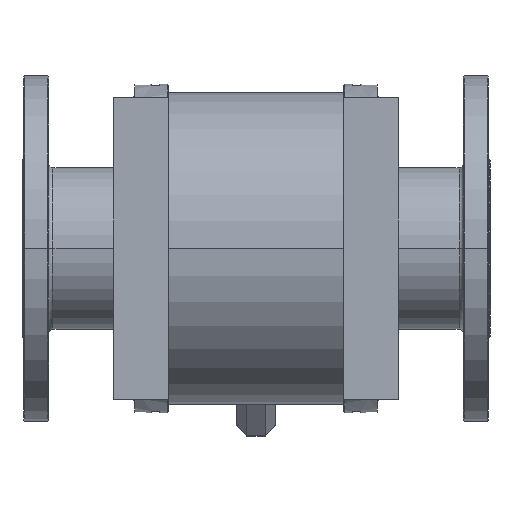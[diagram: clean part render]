
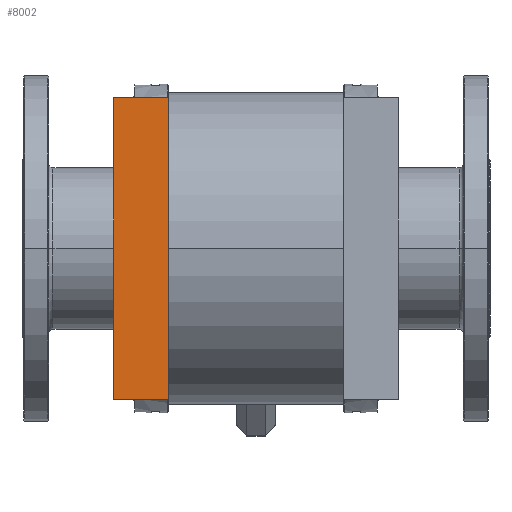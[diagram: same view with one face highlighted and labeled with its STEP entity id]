
A CAD part, front view. The second image highlights one B-rep face of the part: STEP entity #8002.
In plain terms, the highlighted planar face has unit normal (0, -1, 0).
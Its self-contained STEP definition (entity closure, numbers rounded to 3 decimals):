
#423 = AXIS2_PLACEMENT_3D ( 'NONE', #9703, #6635, #3556 ) ;
#809 = VERTEX_POINT ( 'NONE', #8953 ) ;
#1088 = DIRECTION ( 'NONE',  ( 1., 0., 0. ) ) ;
#1782 = VERTEX_POINT ( 'NONE', #3860 ) ;
#1869 = DIRECTION ( 'NONE',  ( 1., 0., 0. ) ) ;
#2388 = ORIENTED_EDGE ( 'NONE', *, *, #12003, .T. ) ;
#3183 = EDGE_LOOP ( 'NONE', ( #2388, #10018, #10512, #3390 ) ) ;
#3321 = CARTESIAN_POINT ( 'NONE',  ( -170., -291.5, -180. ) ) ;
#3360 = EDGE_CURVE ( 'NONE', #6033, #13016, #10537, .T. ) ;
#3390 = ORIENTED_EDGE ( 'NONE', *, *, #3360, .F. ) ;
#3556 = DIRECTION ( 'NONE',  ( 0., 0., 1. ) ) ;
#3860 = CARTESIAN_POINT ( 'NONE',  ( -105., -291.5, 180. ) ) ;
#4084 = LINE ( 'NONE', #7357, #6198 ) ;
#4227 = VECTOR ( 'NONE', #7938, 1000. ) ;
#5021 = VECTOR ( 'NONE', #8572, 1000. ) ;
#6033 = VERTEX_POINT ( 'NONE', #9668 ) ;
#6198 = VECTOR ( 'NONE', #1088, 1000. ) ;
#6541 = VECTOR ( 'NONE', #1869, 1000. ) ;
#6635 = DIRECTION ( 'NONE',  ( 0., 1., 0. ) ) ;
#6885 = EDGE_CURVE ( 'NONE', #13016, #1782, #7926, .T. ) ;
#7357 = CARTESIAN_POINT ( 'NONE',  ( -145., -291.5, -180. ) ) ;
#7394 = CARTESIAN_POINT ( 'NONE',  ( -170., -291.5, 180. ) ) ;
#7789 = FACE_OUTER_BOUND ( 'NONE', #3183, .T. ) ;
#7926 = LINE ( 'NONE', #9895, #6541 ) ;
#7938 = DIRECTION ( 'NONE',  ( 0., 0., 1. ) ) ;
#8002 = ADVANCED_FACE ( 'NONE', ( #7789 ), #13017, .F. ) ;
#8069 = CARTESIAN_POINT ( 'NONE',  ( -105., -291.5, -180. ) ) ;
#8572 = DIRECTION ( 'NONE',  ( 0., 0., 1. ) ) ;
#8953 = CARTESIAN_POINT ( 'NONE',  ( -105., -291.5, -180. ) ) ;
#9668 = CARTESIAN_POINT ( 'NONE',  ( -170., -291.5, -180. ) ) ;
#9703 = CARTESIAN_POINT ( 'NONE',  ( -145., -291.5, 0. ) ) ;
#9895 = CARTESIAN_POINT ( 'NONE',  ( -145., -291.5, 180. ) ) ;
#10018 = ORIENTED_EDGE ( 'NONE', *, *, #11536, .T. ) ;
#10512 = ORIENTED_EDGE ( 'NONE', *, *, #6885, .F. ) ;
#10537 = LINE ( 'NONE', #3321, #5021 ) ;
#11536 = EDGE_CURVE ( 'NONE', #809, #1782, #12275, .T. ) ;
#12003 = EDGE_CURVE ( 'NONE', #6033, #809, #4084, .T. ) ;
#12275 = LINE ( 'NONE', #8069, #4227 ) ;
#13016 = VERTEX_POINT ( 'NONE', #7394 ) ;
#13017 = PLANE ( 'NONE',  #423 ) ;
